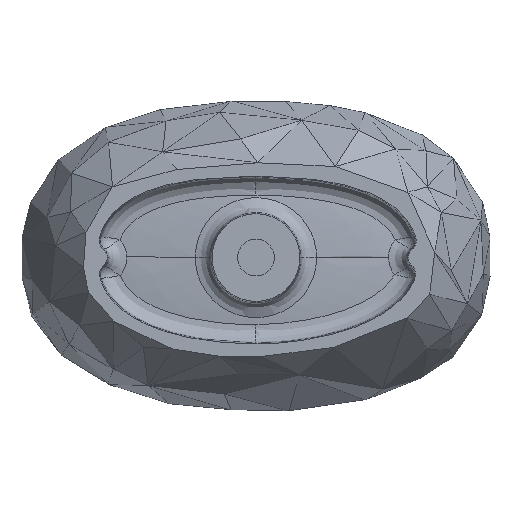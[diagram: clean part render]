
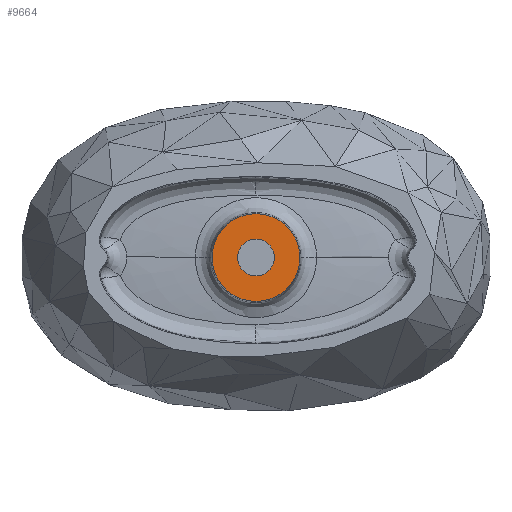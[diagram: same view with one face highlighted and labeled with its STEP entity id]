
A CAD part, front view. The second image highlights one B-rep face of the part: STEP entity #9664.
In plain terms, the highlighted planar face has unit normal (0, -1, 0).
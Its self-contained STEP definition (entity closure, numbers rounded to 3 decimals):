
#1500 = CARTESIAN_POINT ( 'NONE',  ( 0., 0., 0. ) ) ;
#2254 = VERTEX_POINT ( 'NONE', #12115 ) ;
#2359 = AXIS2_PLACEMENT_3D ( 'NONE', #12952, #15587, #23351 ) ;
#4466 = DIRECTION ( 'NONE',  ( 0., -1., 0. ) ) ;
#5177 = EDGE_CURVE ( 'NONE', #13048, #10841, #11618, .T. ) ;
#5993 = CARTESIAN_POINT ( 'NONE',  ( -22., 0., 0. ) ) ;
#6083 = CARTESIAN_POINT ( 'NONE',  ( 0., 0., 0. ) ) ;
#6458 = DIRECTION ( 'NONE',  ( 0., 1., 0. ) ) ;
#7001 = DIRECTION ( 'NONE',  ( 0., 1., 0. ) ) ;
#7177 = VERTEX_POINT ( 'NONE', #20276 ) ;
#7375 = PLANE ( 'NONE',  #10040 ) ;
#7379 = DIRECTION ( 'NONE',  ( 0., 0., 1. ) ) ;
#9664 = ADVANCED_FACE ( 'NONE', ( #11818, #19594 ), #7375, .F. ) ;
#9877 = EDGE_CURVE ( 'NONE', #10841, #13048, #10859, .T. ) ;
#10040 = AXIS2_PLACEMENT_3D ( 'NONE', #15139, #6458, #19715 ) ;
#10163 = DIRECTION ( 'NONE',  ( 1., 0., 0. ) ) ;
#10289 = CARTESIAN_POINT ( 'NONE',  ( 22., 0., 0. ) ) ;
#10456 = CIRCLE ( 'NONE', #24681, 52.5 ) ;
#10515 = CIRCLE ( 'NONE', #2359, 52.5 ) ;
#10841 = VERTEX_POINT ( 'NONE', #5993 ) ;
#10859 = CIRCLE ( 'NONE', #25084, 22. ) ;
#11618 = CIRCLE ( 'NONE', #20171, 22. ) ;
#11818 = FACE_BOUND ( 'NONE', #16077, .T. ) ;
#11940 = DIRECTION ( 'NONE',  ( 0., -1., 0. ) ) ;
#12115 = CARTESIAN_POINT ( 'NONE',  ( 0., 0., -52.5 ) ) ;
#12139 = EDGE_CURVE ( 'NONE', #2254, #7177, #10456, .T. ) ;
#12952 = CARTESIAN_POINT ( 'NONE',  ( 0., 0., 0. ) ) ;
#13048 = VERTEX_POINT ( 'NONE', #10289 ) ;
#14440 = ORIENTED_EDGE ( 'NONE', *, *, #9877, .F. ) ;
#14666 = ORIENTED_EDGE ( 'NONE', *, *, #5177, .F. ) ;
#15139 = CARTESIAN_POINT ( 'NONE',  ( 0., 0., 0. ) ) ;
#15587 = DIRECTION ( 'NONE',  ( 0., 1., 0. ) ) ;
#16077 = EDGE_LOOP ( 'NONE', ( #14666, #14440 ) ) ;
#16538 = EDGE_LOOP ( 'NONE', ( #21245, #19871 ) ) ;
#17728 = CARTESIAN_POINT ( 'NONE',  ( 0., 0., 0. ) ) ;
#19594 = FACE_OUTER_BOUND ( 'NONE', #16538, .T. ) ;
#19715 = DIRECTION ( 'NONE',  ( 0., 0., 1. ) ) ;
#19871 = ORIENTED_EDGE ( 'NONE', *, *, #12139, .F. ) ;
#20171 = AXIS2_PLACEMENT_3D ( 'NONE', #17728, #4466, #21422 ) ;
#20276 = CARTESIAN_POINT ( 'NONE',  ( 0., 0., 52.5 ) ) ;
#21245 = ORIENTED_EDGE ( 'NONE', *, *, #23832, .F. ) ;
#21422 = DIRECTION ( 'NONE',  ( 1., 0., 0. ) ) ;
#23351 = DIRECTION ( 'NONE',  ( 0., 0., 1. ) ) ;
#23832 = EDGE_CURVE ( 'NONE', #7177, #2254, #10515, .T. ) ;
#24681 = AXIS2_PLACEMENT_3D ( 'NONE', #1500, #7001, #7379 ) ;
#25084 = AXIS2_PLACEMENT_3D ( 'NONE', #6083, #11940, #10163 ) ;
